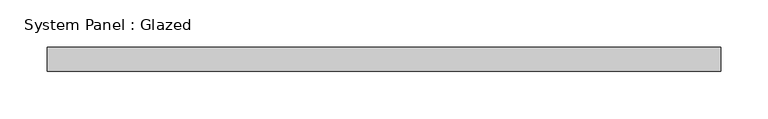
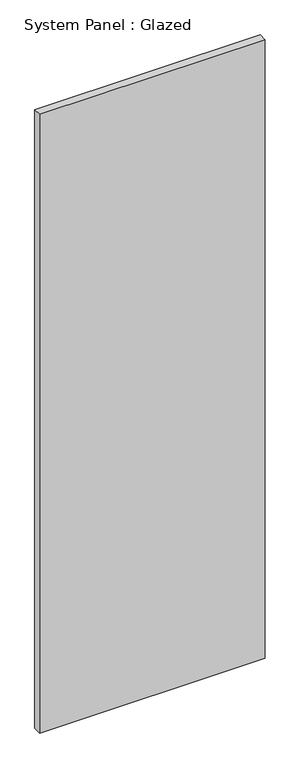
"""IFC4 building model written with IfcOpenShell, lengths in millimetres: plate geometry, System Panel : Glazed."""

import ifcopenshell
import ifcopenshell.guid

model = None  # the IFC model being written
_history = None  # IfcOwnerHistory: only IFC2X3 demands one
_inside = {}  # id of a spatial element -> (the spatial element, [elements in it])
_under = {}  # id of a project, library or spatial element -> (it, [spatial elements below it])
_declared = {}  # id of a project -> (the project, [libraries it declares])
_typed = {}  # id of a type object -> (the type object, [elements of that type])
_made_of = {}  # id of a material, layer set ... -> (it, [elements and type objects made of it])


def new_model(schema):
    """Start an empty IFC model of exactly this schema.

    Asked for "IFC4X3", IfcOpenShell would pick the latest addendum, in which some entities
    have other attributes; the version numbers below select the first issue.
    IFC2X3 requires an IfcOwnerHistory on every rooted entity: one is made here for all.
    """
    global model, _history
    if schema == "IFC4X3":
        model = ifcopenshell.file(schema_version=(4, 3, 0, 0))
    else:
        model = ifcopenshell.file(schema=schema)
    _inside.clear()
    _under.clear()
    _declared.clear()
    _typed.clear()
    _made_of.clear()
    _history = None
    if model.schema == "IFC2X3":
        org = make("IfcOrganization", Name="unknown")
        user = make(
            "IfcPersonAndOrganization",
            ThePerson=make("IfcPerson", FamilyName="unknown"),
            TheOrganization=org,
        )
        app = make(
            "IfcApplication",
            ApplicationDeveloper=org,
            Version="unknown",
            ApplicationFullName="unknown",
            ApplicationIdentifier="unknown",
        )
        _history = make(
            "IfcOwnerHistory",
            OwningUser=user,
            OwningApplication=app,
            ChangeAction="ADDED",
            CreationDate=0,
        )
    return model


def make(cls, **values):
    """One entity of the class cls with the attributes given. An attribute that is None is left unset."""
    return model.create_entity(
        cls, **{name: value for name, value in values.items() if value is not None}
    )


def rooted(cls, **values):
    """An entity with a GlobalId (a new one), such as an element, a storey or a relation."""
    return make(cls, GlobalId=ifcopenshell.guid.new(), OwnerHistory=_history, **values)


def si_unit(unit_type, name, prefix=None):
    """IfcSIUnit, for example si_unit("LENGTHUNIT", "METRE", prefix="MILLI")."""
    return make("IfcSIUnit", UnitType=unit_type, Prefix=prefix, Name=name)


def assignment(units):
    """IfcUnitAssignment: the units of a project."""
    return None if units is None else make("IfcUnitAssignment", Units=units)


def point(xyz):
    """IfcCartesianPoint."""
    return None if xyz is None else make("IfcCartesianPoint", Coordinates=xyz)


def direction(xyz):
    """IfcDirection."""
    return None if xyz is None else make("IfcDirection", DirectionRatios=xyz)


def frame(location, z_axis=None, x_axis=None):
    """IfcAxis2Placement3D, a coordinate frame: its origin and axes. An axis left out is left unset."""
    return make(
        "IfcAxis2Placement3D",
        Location=point(location),
        Axis=direction(z_axis),
        RefDirection=direction(x_axis),
    )


def origin():
    """The frame at (0, 0, 0) with its axes left unset."""
    return frame((0.0, 0.0, 0.0))


def origin_with_axes():
    """The frame at (0, 0, 0) with the z axis (0, 0, 1) and the x axis (1, 0, 0) written out."""
    return frame((0.0, 0.0, 0.0), z_axis=(0.0, 0.0, 1.0), x_axis=(1.0, 0.0, 0.0))


def place(relative_to, where):
    """IfcLocalPlacement: puts the frame where relative to a parent placement (None: the world)."""
    return make(
        "IfcLocalPlacement", PlacementRelTo=relative_to, RelativePlacement=where
    )


def context(
    kind, dimensions, precision=None, world=None, true_north=None, identifier=None
):
    """IfcGeometricRepresentationContext, for example the 3D "Model" context."""
    return make(
        "IfcGeometricRepresentationContext",
        ContextIdentifier=identifier,
        ContextType=kind,
        CoordinateSpaceDimension=dimensions,
        Precision=precision,
        WorldCoordinateSystem=world,
        TrueNorth=true_north,
    )


def project(units=None, contexts=None):
    """IfcProject with its units and contexts."""
    return rooted(
        "IfcProject",
        Name="project",
        RepresentationContexts=contexts,
        UnitsInContext=assignment(units),
    )


def spatial(cls, under=None, at=None, **own):
    """A site, building, storey or space (cls), placed at a placement, below another one or the project."""
    s = rooted(cls, ObjectPlacement=at, **own)
    if under is not None:
        _under.setdefault(under.id(), (under, []))[1].append(s)
    return s


def polyline(points):
    """IfcPolyline through the points."""
    return make("IfcPolyline", Points=[point(p) for p in points])


def outline(outer, holes=None, kind="AREA"):
    """IfcArbitraryClosedProfileDef: a profile drawn as a closed curve; with holes, ...WithVoids."""
    if holes is None:
        return make("IfcArbitraryClosedProfileDef", ProfileType=kind, OuterCurve=outer)
    return make(
        "IfcArbitraryProfileDefWithVoids",
        ProfileType=kind,
        OuterCurve=outer,
        InnerCurves=holes,
    )


def extrude(swept, where, along, depth):
    """IfcExtrudedAreaSolid: the profile swept, set in the frame where, extruded along a direction by depth."""
    return make(
        "IfcExtrudedAreaSolid",
        SweptArea=swept,
        Position=where,
        ExtrudedDirection=direction(along),
        Depth=depth,
    )


def shape(context_of_items, identifier, shape_type, items):
    """IfcShapeRepresentation: the items that make up one representation, for example the "Body"."""
    return make(
        "IfcShapeRepresentation",
        ContextOfItems=context_of_items,
        RepresentationIdentifier=identifier,
        RepresentationType=shape_type,
        Items=items,
    )


def source(mapping_origin, context_of_items, identifier, shape_type, items):
    """IfcRepresentationMap: a shape defined once, which mapped items show again and again."""
    return make(
        "IfcRepresentationMap",
        MappingOrigin=mapping_origin,
        MappedRepresentation=shape(context_of_items, identifier, shape_type, items),
    )


def transform(
    local_origin,
    x_axis=None,
    y_axis=None,
    z_axis=None,
    scale=None,
    scale2=None,
    scale3=None,
    uniform=True,
):
    """IfcCartesianTransformationOperator3D, or its non-uniform kind. x_axis, y_axis, z_axis: its Axis1, 2, 3."""
    if uniform:
        return make(
            "IfcCartesianTransformationOperator3D",
            Axis1=direction(x_axis),
            Axis2=direction(y_axis),
            LocalOrigin=point(local_origin),
            Scale=scale,
            Axis3=direction(z_axis),
        )
    return make(
        "IfcCartesianTransformationOperator3DnonUniform",
        Axis1=direction(x_axis),
        Axis2=direction(y_axis),
        LocalOrigin=point(local_origin),
        Scale=scale,
        Axis3=direction(z_axis),
        Scale2=scale2,
        Scale3=scale3,
    )


def mapped(mapping_source, mapping_target):
    """IfcMappedItem: shows the shape of a source again, moved by a transform."""
    return make(
        "IfcMappedItem", MappingSource=mapping_source, MappingTarget=mapping_target
    )


def made_of(thing, what):
    """Note that an element or type object is made of a material, layer set ...; save() writes the relation."""
    if what is not None:
        _made_of.setdefault(what.id(), (what, []))[1].append(thing)
    return thing


def element(
    cls,
    number,
    at=None,
    inside=None,
    cuts=None,
    type_object=None,
    material=None,
    context=None,
    identifier="Body",
    shape_type=None,
    held_by="IfcProductDefinitionShape",
    body=None,
    shapes=None,
    **own,
):
    """One element of the class cls, such as IfcWall. Its Tag is "e" and its number.

    at: its placement. inside: the storey or other place that contains it. cuts: it is an
    opening in that element (IfcRelVoidsElement). A single representation is given by context,
    identifier, shape_type and body (its items); several are given by shapes. held_by: the class
    of the entity that holds the representations. save() writes the other relations.
    """
    e = rooted(cls, Tag="e%d" % number, ObjectPlacement=at, **own)
    if body is not None:
        shapes = [shape(context, identifier, shape_type, body)]
    if shapes is not None:
        e.Representation = make(held_by, Representations=shapes)
    if inside is not None:
        _inside.setdefault(inside.id(), (inside, []))[1].append(e)
    if cuts is not None:
        rooted(
            "IfcRelVoidsElement", RelatingBuildingElement=cuts, RelatedOpeningElement=e
        )
    if type_object is not None:
        _typed.setdefault(type_object.id(), (type_object, []))[1].append(e)
    return made_of(e, material)


def aggregate(whole, parts):
    """IfcRelAggregates: a whole, such as a stair, and the parts it consists of."""
    return rooted("IfcRelAggregates", RelatingObject=whole, RelatedObjects=parts)


def save(model, path):
    """Write the relations noted so far, then the file.

    IfcRelAggregates (storeys below a building ...), IfcRelContainedInSpatialStructure (elements
    in a storey), IfcRelDefinesByType, IfcRelAssociatesMaterial and IfcRelDeclares: one each for
    every whole, place, type object, material and project.
    """
    for whole, parts in _under.values():
        aggregate(whole, parts)
    for where, things in _inside.values():
        rooted(
            "IfcRelContainedInSpatialStructure",
            RelatedElements=things,
            RelatingStructure=where,
        )
    for kind, things in _typed.values():
        rooted("IfcRelDefinesByType", RelatedObjects=things, RelatingType=kind)
    for what, things in _made_of.values():
        rooted("IfcRelAssociatesMaterial", RelatedObjects=things, RelatingMaterial=what)
    for by, libraries in _declared.values():
        rooted("IfcRelDeclares", RelatingContext=by, RelatedDefinitions=libraries)
    model.write(path)


def system_panel_glazed_7c98c5cb(model_context):
    return source(origin(), model_context, "Body", "SweptSolid", [
        extrude(outline(polyline([(357.0564786, 19.05), (-357.0564786, 19.05), (-357.0564786, 44.45), (357.0564786, 44.45), (357.0564786, 19.05)])), origin_with_axes(), (0.0, 0.0, 1.0), 2070.1),
    ])


if __name__ == "__main__":
    model = new_model("IFC4")
    model_context = context("Model", 3, world=origin())
    ifc_project = project(units=[si_unit("LENGTHUNIT", "METRE", prefix="MILLI")], contexts=[model_context])
    site = spatial("IfcSite", under=ifc_project)
    building = spatial("IfcBuilding", under=site)
    placement = place(None, origin())
    system_panel_glazed_shape = system_panel_glazed_7c98c5cb(model_context)
    element("IfcPlate", 1, ObjectType="System Panel : Glazed", at=placement, inside=building, context=model_context, shape_type="MappedRepresentation", body=[
        mapped(system_panel_glazed_shape, transform((0.0, 0.0, 0.0), x_axis=(1.0, 0.0, 0.0), y_axis=(0.0, 1.0, 0.0), z_axis=(0.0, 0.0, 1.0))),
    ])
    save(model, "model.ifc")
